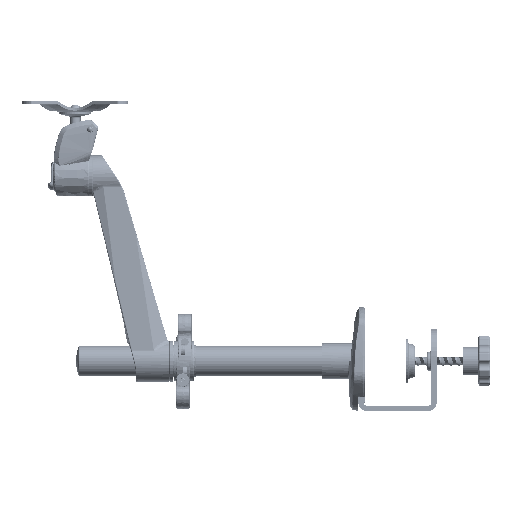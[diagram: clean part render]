
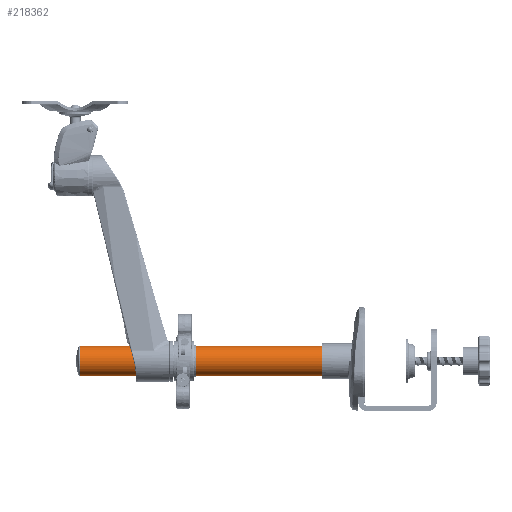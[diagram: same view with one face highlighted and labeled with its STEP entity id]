
A CAD part, left-side view. The second image highlights one B-rep face of the part: STEP entity #218362.
In plain terms, the highlighted cylindrical face has radius 16.75 mm (diameter 33.5 mm), a partial arc.
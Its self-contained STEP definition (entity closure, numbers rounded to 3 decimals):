
#218222=CARTESIAN_POINT('',(0.,302.,0.));
#218223=DIRECTION('',(0.,1.,0.));
#218224=DIRECTION('',(0.,0.,-1.));
#218225=AXIS2_PLACEMENT_3D('',#218222,#218223,#218224);
#218245=DIRECTION('',(0.,1.,0.));
#218246=VECTOR('',#218245,302.);
#218247=CARTESIAN_POINT('',(0.,0.,16.75));
#218248=LINE('',#218247,#218246);
#218249=DIRECTION('',(0.,1.,0.));
#218250=VECTOR('',#218249,302.);
#218251=CARTESIAN_POINT('',(0.,0.,-16.75));
#218252=LINE('',#218251,#218250);
#218253=CARTESIAN_POINT('',(0.,0.,0.));
#218254=DIRECTION('',(0.,-1.,0.));
#218255=DIRECTION('',(0.,0.,1.));
#218256=AXIS2_PLACEMENT_3D('',#218253,#218254,#218255);
#218302=CARTESIAN_POINT('',(0.,0.,-16.75));
#218303=CARTESIAN_POINT('',(0.,0.,16.75));
#218304=VERTEX_POINT('',#218302);
#218305=VERTEX_POINT('',#218303);
#218306=CARTESIAN_POINT('',(0.,302.,16.75));
#218307=VERTEX_POINT('',#218306);
#218308=CARTESIAN_POINT('',(0.,302.,-16.75));
#218309=VERTEX_POINT('',#218308);
#218348=CARTESIAN_POINT('',(0.,302.,0.));
#218349=DIRECTION('',(0.,-1.,0.));
#218350=DIRECTION('',(0.,0.,-1.));
#218351=AXIS2_PLACEMENT_3D('',#218348,#218349,#218350);
#218352=CYLINDRICAL_SURFACE('',#218351,16.75);
#218354=ORIENTED_EDGE('',*,*,#218353,.F.);
#218356=ORIENTED_EDGE('',*,*,#218355,.T.);
#218358=ORIENTED_EDGE('',*,*,#218357,.T.);
#218359=ORIENTED_EDGE('',*,*,#218331,.T.);
#218360=EDGE_LOOP('',(#218354,#218356,#218358,#218359));
#218361=FACE_OUTER_BOUND('',#218360,.F.);
#218362=ADVANCED_FACE('',(#218361),#218352,.T.);
#218226=CIRCLE('',#218225,16.75);
#218257=CIRCLE('',#218256,16.75);
#218331=EDGE_CURVE('',#218309,#218307,#218226,.T.);
#218353=EDGE_CURVE('',#218305,#218307,#218248,.T.);
#218355=EDGE_CURVE('',#218305,#218304,#218257,.T.);
#218357=EDGE_CURVE('',#218304,#218309,#218252,.T.);
